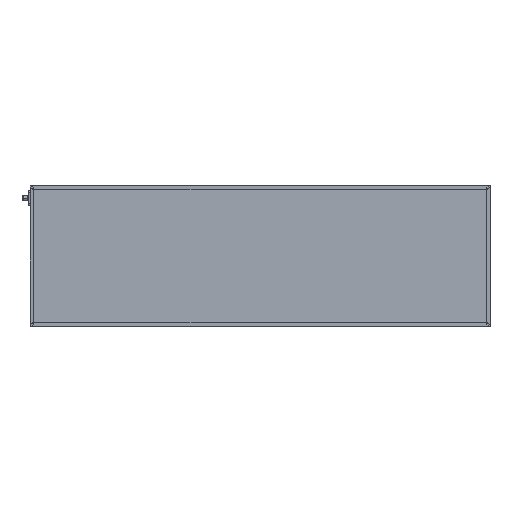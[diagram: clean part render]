
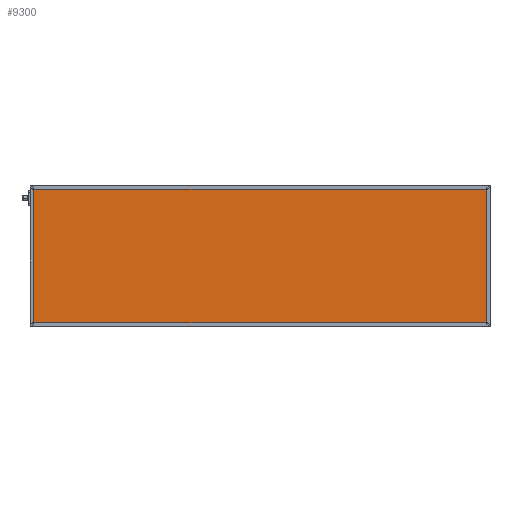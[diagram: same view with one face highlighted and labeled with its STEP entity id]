
A CAD part, top view. The second image highlights one B-rep face of the part: STEP entity #9300.
In plain terms, the highlighted planar face has unit normal (0, 0, 1).
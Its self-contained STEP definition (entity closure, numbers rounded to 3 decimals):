
#93 = CARTESIAN_POINT ( 'NONE',  ( 0., 296., 41.85 ) ) ;
#660 = PLANE ( 'NONE',  #12233 ) ;
#1158 = ORIENTED_EDGE ( 'NONE', *, *, #4930, .T. ) ;
#1312 = CARTESIAN_POINT ( 'NONE',  ( 996., 296., 41.85 ) ) ;
#1809 = CARTESIAN_POINT ( 'NONE',  ( 4., 4., 41.85 ) ) ;
#3464 = ORIENTED_EDGE ( 'NONE', *, *, #13461, .T. ) ;
#3825 = ORIENTED_EDGE ( 'NONE', *, *, #11984, .T. ) ;
#3896 = DIRECTION ( 'NONE',  ( -1., 0., 0. ) ) ;
#3913 = VECTOR ( 'NONE', #7332, 1000. ) ;
#4266 = EDGE_LOOP ( 'NONE', ( #3464, #3825, #17199, #1158 ) ) ;
#4314 = DIRECTION ( 'NONE',  ( 1., 0., 0. ) ) ;
#4523 = VECTOR ( 'NONE', #15851, 1000. ) ;
#4930 = EDGE_CURVE ( 'NONE', #12589, #12624, #11977, .T. ) ;
#5875 = VECTOR ( 'NONE', #6633, 1000. ) ;
#6633 = DIRECTION ( 'NONE',  ( -1., 0., 0. ) ) ;
#7038 = CARTESIAN_POINT ( 'NONE',  ( 996., 4., 41.85 ) ) ;
#7332 = DIRECTION ( 'NONE',  ( 0., -1., 0. ) ) ;
#7674 = LINE ( 'NONE', #11581, #4523 ) ;
#7806 = VERTEX_POINT ( 'NONE', #1312 ) ;
#8940 = DIRECTION ( 'NONE',  ( 0., 0., -1. ) ) ;
#9300 = ADVANCED_FACE ( 'NONE', ( #10072 ), #660, .F. ) ;
#9775 = LINE ( 'NONE', #12735, #3913 ) ;
#9958 = EDGE_CURVE ( 'NONE', #11362, #12589, #9775, .T. ) ;
#10072 = FACE_OUTER_BOUND ( 'NONE', #4266, .T. ) ;
#10552 = LINE ( 'NONE', #93, #5875 ) ;
#11285 = CARTESIAN_POINT ( 'NONE',  ( 0., 0., 41.85 ) ) ;
#11303 = VECTOR ( 'NONE', #4314, 1000. ) ;
#11362 = VERTEX_POINT ( 'NONE', #13298 ) ;
#11581 = CARTESIAN_POINT ( 'NONE',  ( 996., 0., 41.85 ) ) ;
#11977 = LINE ( 'NONE', #14941, #11303 ) ;
#11984 = EDGE_CURVE ( 'NONE', #7806, #11362, #10552, .T. ) ;
#12233 = AXIS2_PLACEMENT_3D ( 'NONE', #11285, #8940, #3896 ) ;
#12589 = VERTEX_POINT ( 'NONE', #1809 ) ;
#12624 = VERTEX_POINT ( 'NONE', #7038 ) ;
#12735 = CARTESIAN_POINT ( 'NONE',  ( 4., 0., 41.85 ) ) ;
#13298 = CARTESIAN_POINT ( 'NONE',  ( 4., 296., 41.85 ) ) ;
#13461 = EDGE_CURVE ( 'NONE', #12624, #7806, #7674, .T. ) ;
#14941 = CARTESIAN_POINT ( 'NONE',  ( 0., 4., 41.85 ) ) ;
#15851 = DIRECTION ( 'NONE',  ( 0., 1., 0. ) ) ;
#17199 = ORIENTED_EDGE ( 'NONE', *, *, #9958, .T. ) ;
